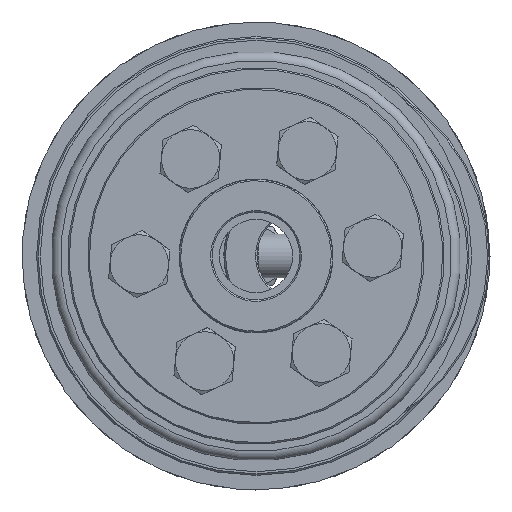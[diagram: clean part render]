
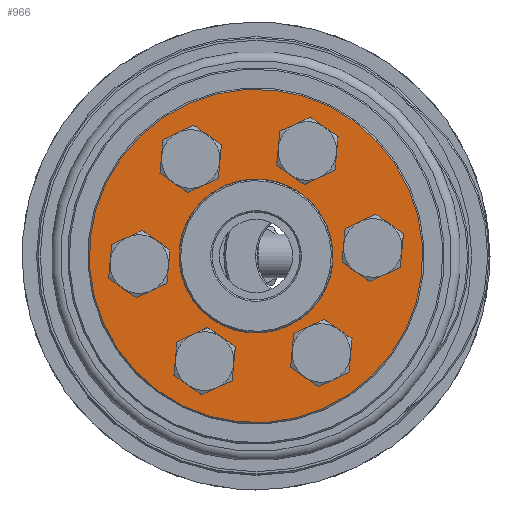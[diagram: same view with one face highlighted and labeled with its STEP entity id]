
A CAD part, left-side view. The second image highlights one B-rep face of the part: STEP entity #966.
In plain terms, the highlighted planar face has unit normal (-1, 0, 0).
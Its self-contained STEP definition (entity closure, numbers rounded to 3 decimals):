
#966 = ADVANCED_FACE( 'NONE', ( #1504, #1505, #1506, #1507, #1508, #1509, #1510, #1511 ), #1512, .F. );
#1504 = FACE_OUTER_BOUND( '', #1979, .T. );
#1505 = FACE_BOUND( '', #1980, .T. );
#1506 = FACE_BOUND( '', #1981, .T. );
#1507 = FACE_BOUND( '', #1982, .T. );
#1508 = FACE_BOUND( '', #1983, .T. );
#1509 = FACE_BOUND( '', #1984, .T. );
#1510 = FACE_BOUND( '', #1985, .T. );
#1511 = FACE_BOUND( '', #1986, .T. );
#1512 = PLANE( '', #1987 );
#1979 = EDGE_LOOP( '', ( #2680 ) );
#1980 = EDGE_LOOP( '', ( #2681 ) );
#1981 = EDGE_LOOP( '', ( #2682 ) );
#1982 = EDGE_LOOP( '', ( #2683 ) );
#1983 = EDGE_LOOP( '', ( #2684 ) );
#1984 = EDGE_LOOP( '', ( #2685 ) );
#1985 = EDGE_LOOP( '', ( #2686 ) );
#1986 = EDGE_LOOP( '', ( #2687 ) );
#1987 = AXIS2_PLACEMENT_3D( '', #2688, #2689, #2690 );
#2680 = ORIENTED_EDGE( '', *, *, #3394, .T. );
#2681 = ORIENTED_EDGE( '', *, *, #3395, .T. );
#2682 = ORIENTED_EDGE( '', *, *, #3396, .T. );
#2683 = ORIENTED_EDGE( '', *, *, #3392, .T. );
#2684 = ORIENTED_EDGE( '', *, *, #3397, .T. );
#2685 = ORIENTED_EDGE( '', *, *, #3398, .T. );
#2686 = ORIENTED_EDGE( '', *, *, #3399, .T. );
#2687 = ORIENTED_EDGE( '', *, *, #3400, .F. );
#2688 = CARTESIAN_POINT( '', ( 0., 10.5, 0. ) );
#2689 = DIRECTION( '', ( 1., 0., 0. ) );
#2690 = DIRECTION( '', ( 0., 1., 0. ) );
#3392 = EDGE_CURVE( 'NONE', #3818, #3818, #3819, .T. );
#3394 = EDGE_CURVE( 'NONE', #3822, #3822, #3823, .T. );
#3395 = EDGE_CURVE( 'NONE', #3824, #3824, #3825, .T. );
#3396 = EDGE_CURVE( 'NONE', #3826, #3826, #3827, .T. );
#3397 = EDGE_CURVE( 'NONE', #3828, #3828, #3829, .T. );
#3398 = EDGE_CURVE( 'NONE', #3830, #3830, #3831, .T. );
#3399 = EDGE_CURVE( 'NONE', #3832, #3832, #3833, .T. );
#3400 = EDGE_CURVE( 'NONE', #3834, #3834, #3835, .T. );
#3818 = VERTEX_POINT( '', #4252 );
#3819 = CIRCLE( '', #4253, 2.75 );
#3822 = VERTEX_POINT( '', #4256 );
#3823 = CIRCLE( '', #4257, 22.8 );
#3824 = VERTEX_POINT( '', #4258 );
#3825 = CIRCLE( '', #4259, 2.75 );
#3826 = VERTEX_POINT( '', #4260 );
#3827 = CIRCLE( '', #4261, 2.75 );
#3828 = VERTEX_POINT( '', #4262 );
#3829 = CIRCLE( '', #4263, 2.75 );
#3830 = VERTEX_POINT( '', #4264 );
#3831 = CIRCLE( '', #4265, 2.75 );
#3832 = VERTEX_POINT( '', #4266 );
#3833 = CIRCLE( '', #4267, 2.75 );
#3834 = VERTEX_POINT( '', #4268 );
#3835 = CIRCLE( '', #4269, 10.5 );
#4252 = CARTESIAN_POINT( '', ( 0., -16., -2.75 ) );
#4253 = AXIS2_PLACEMENT_3D( '', #5136, #5137, #5138 );
#4256 = CARTESIAN_POINT( '', ( 0., 0., -22.8 ) );
#4257 = AXIS2_PLACEMENT_3D( '', #5142, #5143, #5144 );
#4258 = CARTESIAN_POINT( '', ( 0., 8., 11.106 ) );
#4259 = AXIS2_PLACEMENT_3D( '', #5145, #5146, #5147 );
#4260 = CARTESIAN_POINT( '', ( 0., -8., 11.106 ) );
#4261 = AXIS2_PLACEMENT_3D( '', #5148, #5149, #5150 );
#4262 = CARTESIAN_POINT( '', ( 0., -8., -16.606 ) );
#4263 = AXIS2_PLACEMENT_3D( '', #5151, #5152, #5153 );
#4264 = CARTESIAN_POINT( '', ( 0., 8., -16.606 ) );
#4265 = AXIS2_PLACEMENT_3D( '', #5154, #5155, #5156 );
#4266 = CARTESIAN_POINT( '', ( 0., 16., -2.75 ) );
#4267 = AXIS2_PLACEMENT_3D( '', #5157, #5158, #5159 );
#4268 = CARTESIAN_POINT( '', ( 0., 0., 10.5 ) );
#4269 = AXIS2_PLACEMENT_3D( '', #5160, #5161, #5162 );
#5136 = CARTESIAN_POINT( '', ( 0., -16., 0. ) );
#5137 = DIRECTION( '', ( 1., 0., 0. ) );
#5138 = DIRECTION( '', ( 0., 0., -1. ) );
#5142 = CARTESIAN_POINT( '', ( 0., 0., 0. ) );
#5143 = DIRECTION( '', ( -1., 0., 0. ) );
#5144 = DIRECTION( '', ( 0., 0., -1. ) );
#5145 = CARTESIAN_POINT( '', ( 0., 8., 13.856 ) );
#5146 = DIRECTION( '', ( 1., 0., 0. ) );
#5147 = DIRECTION( '', ( 0., 0., -1. ) );
#5148 = CARTESIAN_POINT( '', ( 0., -8., 13.856 ) );
#5149 = DIRECTION( '', ( 1., 0., 0. ) );
#5150 = DIRECTION( '', ( 0., 0., -1. ) );
#5151 = CARTESIAN_POINT( '', ( 0., -8., -13.856 ) );
#5152 = DIRECTION( '', ( 1., 0., 0. ) );
#5153 = DIRECTION( '', ( 0., 0., -1. ) );
#5154 = CARTESIAN_POINT( '', ( 0., 8., -13.856 ) );
#5155 = DIRECTION( '', ( 1., 0., 0. ) );
#5156 = DIRECTION( '', ( 0., 0., -1. ) );
#5157 = CARTESIAN_POINT( '', ( 0., 16., 0. ) );
#5158 = DIRECTION( '', ( 1., 0., 0. ) );
#5159 = DIRECTION( '', ( 0., 0., -1. ) );
#5160 = CARTESIAN_POINT( '', ( 0., 0., 0. ) );
#5161 = DIRECTION( '', ( -1., 0., 0. ) );
#5162 = DIRECTION( '', ( 0., 0., 1. ) );
